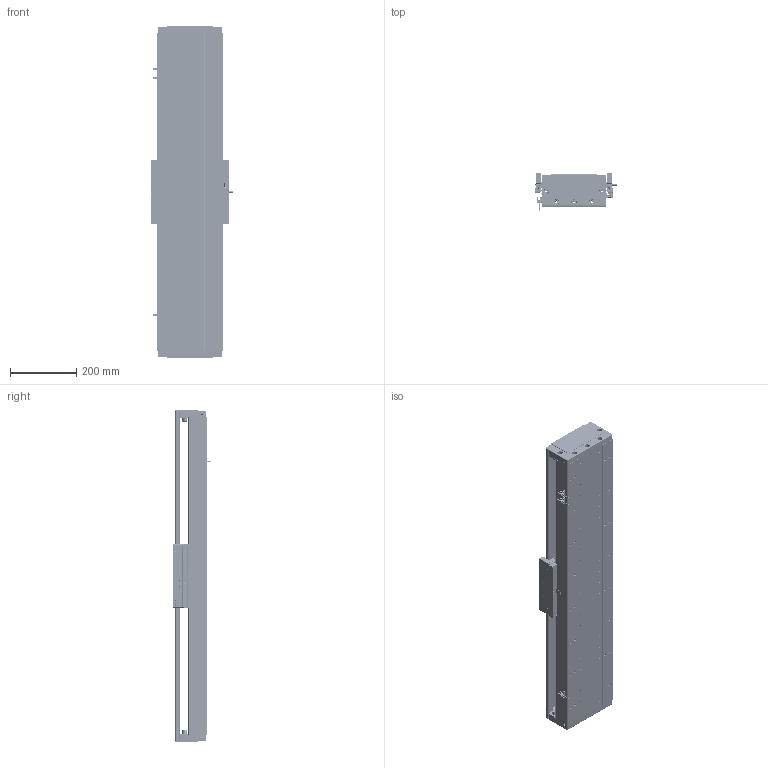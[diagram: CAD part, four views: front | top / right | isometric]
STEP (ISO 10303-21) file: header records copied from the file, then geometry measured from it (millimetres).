
FILE_DESCRIPTION (( 'STEP AP203' ), '1' );
FILE_NAME ('DA-C195-C2-T720-C010-0.2 眻盄萇儂.STEP', '2025-08-15T01:01:38', ( '' ), ( '' ), 'SwSTEP 2.0', 'SolidWorks 2019', '' );
FILE_SCHEMA (( 'CONFIG_CONTROL_DESIGN' ));
Length unit declared in the file: millimetre
Products named in the file (12): DA195-DG-H-00  端盖（压铸镂空版）; MS200 棠掑喜S315-T240; IU-CU195-L-00 菁釱(L960); DA95-HXJ-00 遣喳砎蝶; DA-C195-C2-T720-C010-0.2 眻盄萇儂; CU195-C2賑輸-俋楷; 66156-0001-005-00 光电感应片(默认); 葩璃 DA95-GT-T-00; PM-T45ㄗ侂狟ㄘ; 66156-0001-003-00 裔啣; LMT黍杅芛; IU-CU195-L 菁釱絳寢
Assembly tree (20 placements, depth 3):
  DA-C195-C2-T720-C010-0.2 眻盄萇儂
    IU-CU195-L 菁釱絳寢
      IU-CU195-L-00 菁釱(L960)
      葩璃 DA95-GT-T-00  x4
    LMT黍杅芛
    MS200 棠掑喜S315-T240
    PM-T45ㄗ侂狟ㄘ  x3
    66156-0001-005-00 光电感应片(默认)
    DA195-DG-H-00  端盖（压铸镂空版）  x2
    DA95-HXJ-00 遣喳砎蝶  x4
    66156-0001-003-00 裔啣
    CU195-C2賑輸-俋楷
Bounding box: 248 x 115.6 x 1000 mm (x, y, z)
Volume: 7255542.3 mm3; surface area: 2066174.4 mm2
Topology: 58 solids, 130 shells, 5163 faces, 13076 edges, 7929 vertices
Faces by surface type: cylinder 2181, plane 1632, bspline 710, cone 560, torus 44, sphere 36
Entity records: 140565 total; most frequent: CARTESIAN_POINT 43343, ORIENTED_EDGE 20206, DIRECTION 19584, EDGE_CURVE 10103, AXIS2_PLACEMENT_3D 7283, VERTEX_POINT 6359, LINE 5018, VECTOR 5018
